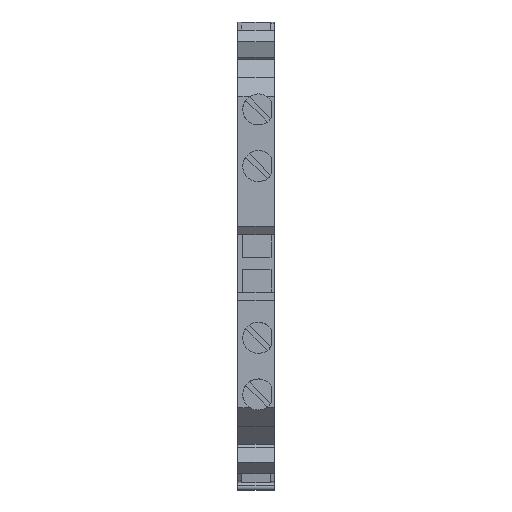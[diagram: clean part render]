
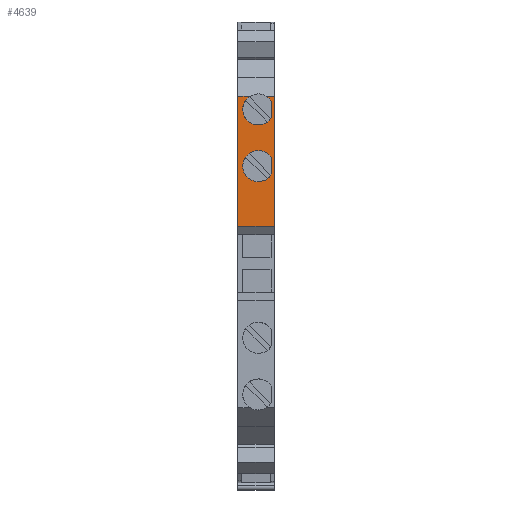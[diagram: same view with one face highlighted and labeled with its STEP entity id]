
A CAD part, top view. The second image highlights one B-rep face of the part: STEP entity #4639.
In plain terms, the highlighted planar face has unit normal (0, 0, 1).
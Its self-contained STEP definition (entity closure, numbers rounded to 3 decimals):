
#385=CARTESIAN_POINT('',(-0.,36.8,46.85));
#386=VERTEX_POINT('',#385);
#393=CARTESIAN_POINT('',(-0.,55.,46.85));
#394=VERTEX_POINT('',#393);
#395=CARTESIAN_POINT('',(-0.,36.8,46.85));
#396=DIRECTION('',(-0.,1.,-0.));
#397=VECTOR('',#396,18.2);
#398=LINE('',#395,#397);
#399=EDGE_CURVE('',#386,#394,#398,.T.);
#722=CARTESIAN_POINT('',(5.15,55.,46.85));
#723=VERTEX_POINT('',#722);
#730=CARTESIAN_POINT('',(5.15,36.8,46.85));
#731=VERTEX_POINT('',#730);
#732=CARTESIAN_POINT('',(5.15,36.8,46.85));
#733=DIRECTION('',(-0.,1.,-0.));
#734=VECTOR('',#733,18.2);
#735=LINE('',#732,#734);
#736=EDGE_CURVE('',#731,#723,#735,.T.);
#1642=CARTESIAN_POINT('',(5.15,36.8,46.85));
#1643=DIRECTION('',(-1.,-0.,0.));
#1644=VECTOR('',#1643,5.15);
#1645=LINE('',#1642,#1644);
#1646=EDGE_CURVE('',#731,#386,#1645,.T.);
#4552=CARTESIAN_POINT('',(0.,54.379,46.85));
#4553=DIRECTION('',(-0.,-0.,-1.));
#4554=DIRECTION('',(-0.,1.,-0.));
#4555=AXIS2_PLACEMENT_3D('',#4552,#4553,#4554);
#4556=PLANE('',#4555);
#4557=CARTESIAN_POINT('',(4.8,44.141,46.85));
#4558=VERTEX_POINT('',#4557);
#4559=CARTESIAN_POINT('',(2.9,43.025,46.85));
#4560=VERTEX_POINT('',#4559);
#4561=CARTESIAN_POINT('',(2.9,45.2,46.85));
#4562=DIRECTION('',(-0.,-0.,-1.));
#4563=DIRECTION('',(-0.,1.,-0.));
#4564=AXIS2_PLACEMENT_3D('',#4561,#4562,#4563);
#4565=CIRCLE('',#4564,2.175);
#4566=EDGE_CURVE('',#4558,#4560,#4565,.T.);
#4567=ORIENTED_EDGE('',*,*,#4566,.T.);
#4568=CARTESIAN_POINT('',(4.8,46.259,46.85));
#4569=VERTEX_POINT('',#4568);
#4570=CARTESIAN_POINT('',(2.9,45.2,46.85));
#4571=DIRECTION('',(-0.,-0.,-1.));
#4572=DIRECTION('',(-0.,1.,-0.));
#4573=AXIS2_PLACEMENT_3D('',#4570,#4571,#4572);
#4574=CIRCLE('',#4573,2.175);
#4575=EDGE_CURVE('',#4560,#4569,#4574,.T.);
#4576=ORIENTED_EDGE('',*,*,#4575,.T.);
#4577=CARTESIAN_POINT('',(4.8,44.141,46.85));
#4578=DIRECTION('',(-0.,1.,-0.));
#4579=VECTOR('',#4578,2.117);
#4580=LINE('',#4577,#4579);
#4581=EDGE_CURVE('',#4558,#4569,#4580,.T.);
#4582=ORIENTED_EDGE('',*,*,#4581,.F.);
#4583=EDGE_LOOP('',(#4567,#4576,#4582));
#4584=FACE_BOUND('',#4583,.T.);
#4585=ORIENTED_EDGE('',*,*,#736,.T.);
#4586=CARTESIAN_POINT('',(4.002,55.,46.85));
#4587=VERTEX_POINT('',#4586);
#4588=CARTESIAN_POINT('',(5.15,55.,46.85));
#4589=DIRECTION('',(-1.,-0.,0.));
#4590=VECTOR('',#4589,1.148);
#4591=LINE('',#4588,#4590);
#4592=EDGE_CURVE('',#723,#4587,#4591,.T.);
#4593=ORIENTED_EDGE('',*,*,#4592,.T.);
#4594=CARTESIAN_POINT('',(4.8,54.184,46.85));
#4595=VERTEX_POINT('',#4594);
#4596=CARTESIAN_POINT('',(2.9,53.125,46.85));
#4597=DIRECTION('',(-0.,-0.,-1.));
#4598=DIRECTION('',(-0.,1.,-0.));
#4599=AXIS2_PLACEMENT_3D('',#4596,#4597,#4598);
#4600=CIRCLE('',#4599,2.175);
#4601=EDGE_CURVE('',#4587,#4595,#4600,.T.);
#4602=ORIENTED_EDGE('',*,*,#4601,.T.);
#4603=CARTESIAN_POINT('',(4.8,52.066,46.85));
#4604=VERTEX_POINT('',#4603);
#4605=CARTESIAN_POINT('',(4.8,52.066,46.85));
#4606=DIRECTION('',(-0.,1.,-0.));
#4607=VECTOR('',#4606,2.117);
#4608=LINE('',#4605,#4607);
#4609=EDGE_CURVE('',#4604,#4595,#4608,.T.);
#4610=ORIENTED_EDGE('',*,*,#4609,.F.);
#4611=CARTESIAN_POINT('',(2.9,50.95,46.85));
#4612=VERTEX_POINT('',#4611);
#4613=CARTESIAN_POINT('',(2.9,53.125,46.85));
#4614=DIRECTION('',(-0.,-0.,-1.));
#4615=DIRECTION('',(-0.,1.,-0.));
#4616=AXIS2_PLACEMENT_3D('',#4613,#4614,#4615);
#4617=CIRCLE('',#4616,2.175);
#4618=EDGE_CURVE('',#4604,#4612,#4617,.T.);
#4619=ORIENTED_EDGE('',*,*,#4618,.T.);
#4620=CARTESIAN_POINT('',(1.798,55.,46.85));
#4621=VERTEX_POINT('',#4620);
#4622=CARTESIAN_POINT('',(2.9,53.125,46.85));
#4623=DIRECTION('',(-0.,-0.,-1.));
#4624=DIRECTION('',(-0.,1.,-0.));
#4625=AXIS2_PLACEMENT_3D('',#4622,#4623,#4624);
#4626=CIRCLE('',#4625,2.175);
#4627=EDGE_CURVE('',#4612,#4621,#4626,.T.);
#4628=ORIENTED_EDGE('',*,*,#4627,.T.);
#4629=CARTESIAN_POINT('',(1.798,55.,46.85));
#4630=DIRECTION('',(-1.,-0.,0.));
#4631=VECTOR('',#4630,1.798);
#4632=LINE('',#4629,#4631);
#4633=EDGE_CURVE('',#4621,#394,#4632,.T.);
#4634=ORIENTED_EDGE('',*,*,#4633,.T.);
#4635=ORIENTED_EDGE('',*,*,#399,.F.);
#4636=ORIENTED_EDGE('',*,*,#1646,.F.);
#4637=EDGE_LOOP('',(#4585,#4593,#4602,#4610,#4619,#4628,#4634,#4635,#4636));
#4638=FACE_BOUND('',#4637,.T.);
#4639=ADVANCED_FACE('',(#4584,#4638),#4556,.F.);
